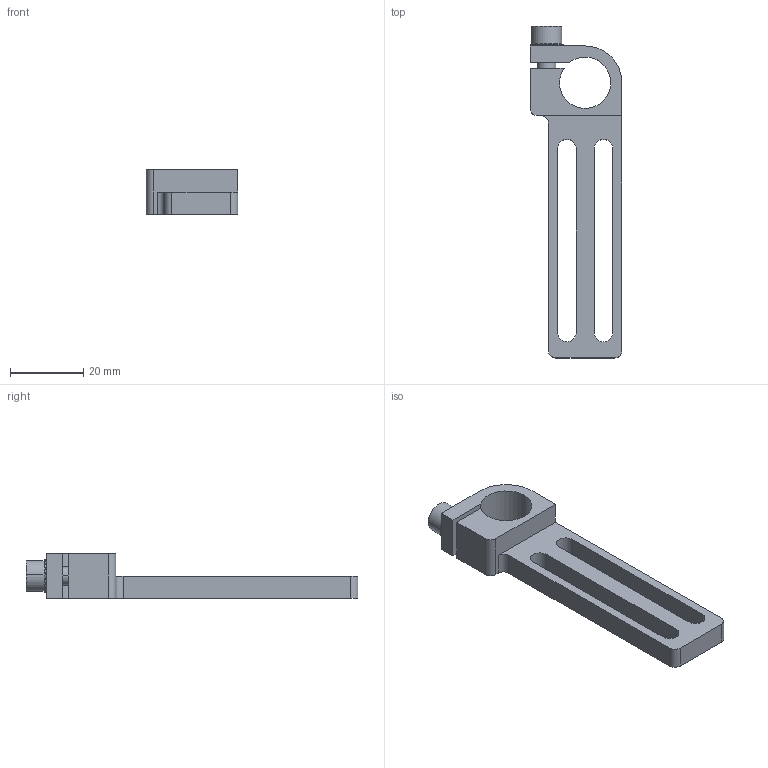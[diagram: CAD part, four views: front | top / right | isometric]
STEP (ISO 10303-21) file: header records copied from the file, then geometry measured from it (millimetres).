
FILE_DESCRIPTION (( 'STEP AP214' ), '1' );
FILE_NAME ('SMBE1-1450.STEP', '2024-08-13T06:11:33', ( '' ), ( '' ), 'SwSTEP 2.0', 'SolidWorks 2022', '' );
FILE_SCHEMA (( 'AUTOMOTIVE_DESIGN' ));
Length unit declared in the file: millimetre
Products named in the file (5): PTS-M5.STEP; PTC-M5L14.STEP; SMBE1-1450; SMBE1-1450-T.STEP; SMBE1-1450.STEP
Assembly tree (4 placements, depth 3):
  SMBE1-1450
    SMBE1-1450-T.STEP
      SMBE1-1450.STEP
      PTC-M5L14.STEP
      PTS-M5.STEP
Bounding box: 25 x 90.45 x 12 mm (x, y, z)
Volume: 8252.4 mm3; surface area: 6810.6 mm2
Topology: 3 solids, 3 shells, 217 faces, 624 edges, 414 vertices
Faces by surface type: plane 187, cylinder 24, cone 6
Entity records: 7360 total; most frequent: DIRECTION 1288, CARTESIAN_POINT 1263, ORIENTED_EDGE 1248, EDGE_CURVE 624, AXIS2_PLACEMENT_3D 439, VERTEX_POINT 414, LINE 410, VECTOR 410
